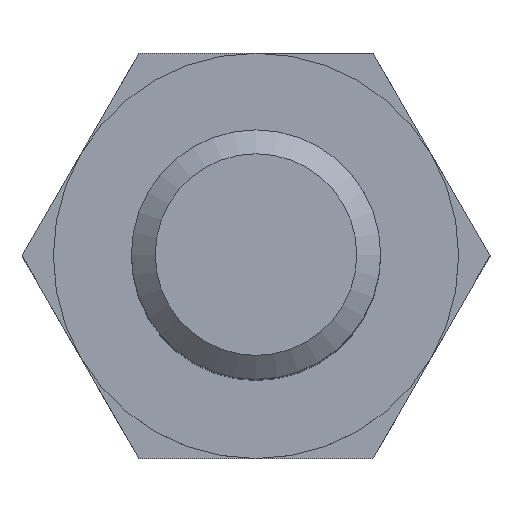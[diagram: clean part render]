
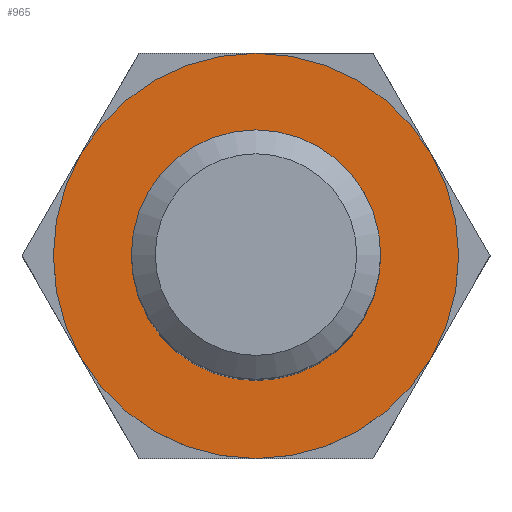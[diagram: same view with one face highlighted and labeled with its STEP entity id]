
A CAD part, top view. The second image highlights one B-rep face of the part: STEP entity #965.
In plain terms, the highlighted planar face has unit normal (0, 0, 1).
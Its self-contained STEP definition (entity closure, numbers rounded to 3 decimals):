
#330=CARTESIAN_POINT('',(4.0,0.,0.0));
#331=VERTEX_POINT('',#330);
#332=CARTESIAN_POINT('',(0.,0.,0.0));
#333=DIRECTION('',(0.0,0.0,-1.0));
#334=DIRECTION('',(-1.0,0.0,0.0));
#335=AXIS2_PLACEMENT_3D('',#332,#333,#334);
#336=CIRCLE('',#335,4.0);
#337=EDGE_CURVE('',#331,#331,#336,.T.);
#942=CARTESIAN_POINT('',(-6.5,0.0,0.0));
#943=VERTEX_POINT('',#942);
#944=CARTESIAN_POINT('',(0.,0.,0.));
#945=DIRECTION('',(0.0,0.0,1.0));
#946=DIRECTION('',(-1.0,0.0,0.0));
#947=AXIS2_PLACEMENT_3D('',#944,#945,#946);
#948=CIRCLE('',#947,6.5);
#949=EDGE_CURVE('',#943,#943,#948,.F.);
#954=CARTESIAN_POINT('',(0.0,0.,0.0));
#955=DIRECTION('',(0.0,0.0,-1.0));
#956=DIRECTION('',(-1.0,0.0,0.0));
#957=AXIS2_PLACEMENT_3D('',#954,#955,#956);
#958=PLANE('',#957);
#959=ORIENTED_EDGE('',*,*,#949,.F.);
#960=EDGE_LOOP('',(#959));
#961=FACE_OUTER_BOUND('',#960,.T.);
#962=ORIENTED_EDGE('',*,*,#337,.T.);
#963=EDGE_LOOP('',(#962));
#964=FACE_BOUND('',#963,.T.);
#965=ADVANCED_FACE('',(#961,#964),#958,.F.);
